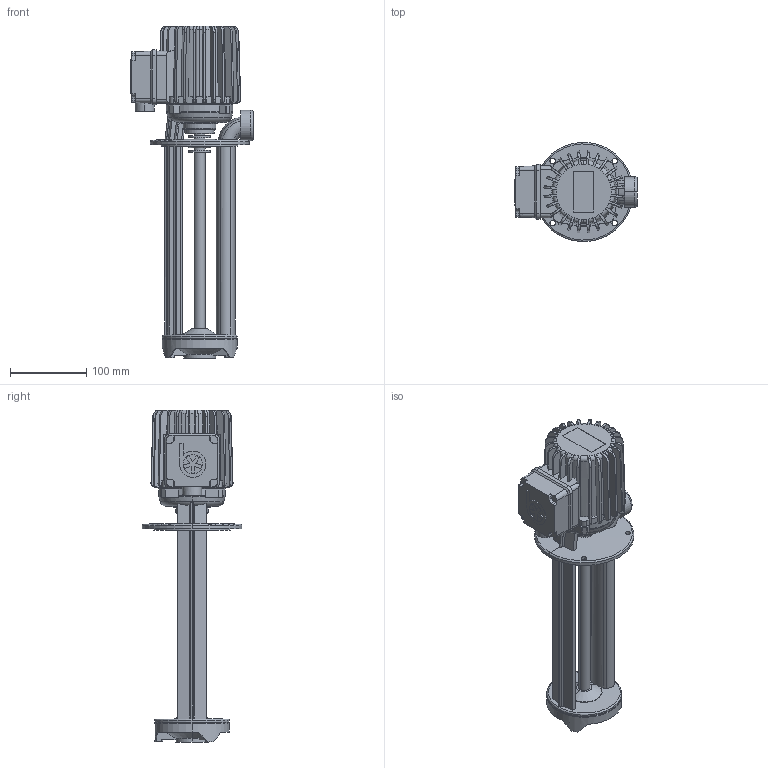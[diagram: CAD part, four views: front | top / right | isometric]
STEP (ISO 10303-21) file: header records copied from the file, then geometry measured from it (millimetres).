
FILE_DESCRIPTION(('no description'),'unknown implementation level');
FILE_NAME('TB100_270_5.stp',' ',('K. H. Brinkmann GmbH & Co. KG'),('CADClick - KiM GmbH - www.kimweb.de'),'unknown preprocess','ACIS','unknown authorization');
FILE_SCHEMA(('automotive_design'));
Length unit declared in the file: millimetre
Products named in the file (3): 1; 2; 3
Bounding box: 160 x 130 x 435 mm (x, y, z)
Volume: 1649630.6 mm3; surface area: 258132.6 mm2
Topology: 3 solids, 3 shells, 558 faces, 1551 edges, 1016 vertices
Faces by surface type: plane 251, cylinder 177, torus 67, cone 63
Entity records: 38590 total; most frequent: CARTESIAN_POINT 6926, STYLED_ITEM 3128, PRESENTATION_STYLE_ASSIGNMENT 3128, COLOUR_RGB 3128, ORIENTED_EDGE 3102, DIRECTION 2996, EDGE_CURVE 1551, CURVE_STYLE 1551
